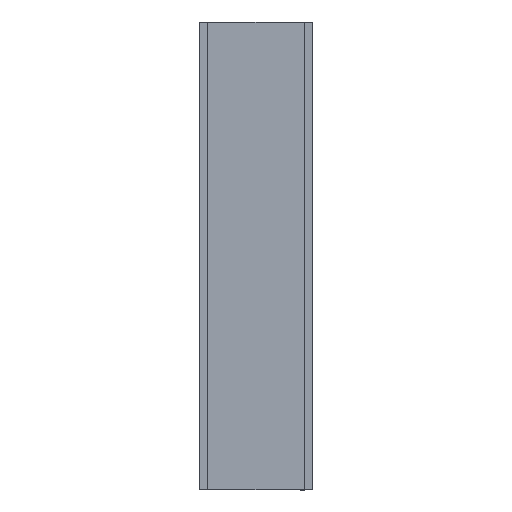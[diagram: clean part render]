
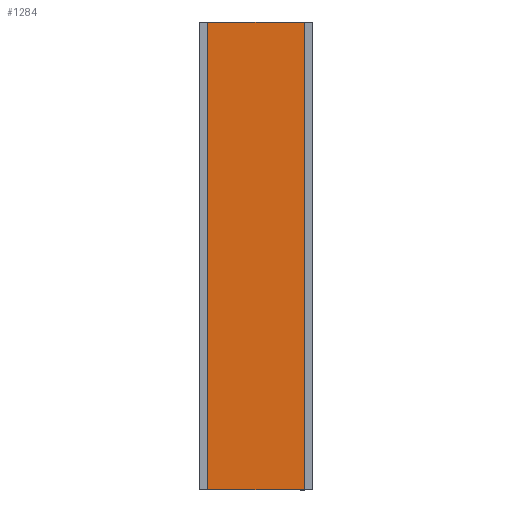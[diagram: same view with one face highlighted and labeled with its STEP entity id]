
A CAD part, front view. The second image highlights one B-rep face of the part: STEP entity #1284.
In plain terms, the highlighted planar face has unit normal (0, -1, 0).
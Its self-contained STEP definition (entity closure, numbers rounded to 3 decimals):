
#31 = EDGE_CURVE ( 'NONE', #717, #568, #858, .T. ) ;
#125 = LINE ( 'NONE', #543, #424 ) ;
#135 = EDGE_LOOP ( 'NONE', ( #270, #705, #887, #973 ) ) ;
#189 = CARTESIAN_POINT ( 'NONE',  ( 118.075, 0., -460. ) ) ;
#232 = AXIS2_PLACEMENT_3D ( 'NONE', #800, #277, #392 ) ;
#270 = ORIENTED_EDGE ( 'NONE', *, *, #612, .F. ) ;
#277 = DIRECTION ( 'NONE',  ( 0., -1., 0. ) ) ;
#293 = VECTOR ( 'NONE', #1319, 1000. ) ;
#330 = CARTESIAN_POINT ( 'NONE',  ( 0., 0., 0. ) ) ;
#351 = EDGE_CURVE ( 'NONE', #420, #1202, #1051, .T. ) ;
#392 = DIRECTION ( 'NONE',  ( 0., 0., -1. ) ) ;
#398 = PLANE ( 'NONE',  #232 ) ;
#420 = VERTEX_POINT ( 'NONE', #969 ) ;
#424 = VECTOR ( 'NONE', #870, 1000. ) ;
#480 = CARTESIAN_POINT ( 'NONE',  ( 23.075, 0., 0. ) ) ;
#543 = CARTESIAN_POINT ( 'NONE',  ( 23.075, 0., -460. ) ) ;
#568 = VERTEX_POINT ( 'NONE', #740 ) ;
#587 = LINE ( 'NONE', #1333, #293 ) ;
#612 = EDGE_CURVE ( 'NONE', #420, #717, #125, .T. ) ;
#705 = ORIENTED_EDGE ( 'NONE', *, *, #351, .T. ) ;
#717 = VERTEX_POINT ( 'NONE', #480 ) ;
#740 = CARTESIAN_POINT ( 'NONE',  ( 118.075, 0., 0. ) ) ;
#747 = DIRECTION ( 'NONE',  ( 1., 0., 0. ) ) ;
#800 = CARTESIAN_POINT ( 'NONE',  ( 0., 0., -460. ) ) ;
#820 = VECTOR ( 'NONE', #1250, 1000. ) ;
#858 = LINE ( 'NONE', #330, #1322 ) ;
#870 = DIRECTION ( 'NONE',  ( 0., 0., 1. ) ) ;
#887 = ORIENTED_EDGE ( 'NONE', *, *, #1273, .T. ) ;
#969 = CARTESIAN_POINT ( 'NONE',  ( 23.075, 0., -460. ) ) ;
#973 = ORIENTED_EDGE ( 'NONE', *, *, #31, .F. ) ;
#1005 = FACE_OUTER_BOUND ( 'NONE', #135, .T. ) ;
#1051 = LINE ( 'NONE', #1243, #820 ) ;
#1202 = VERTEX_POINT ( 'NONE', #189 ) ;
#1243 = CARTESIAN_POINT ( 'NONE',  ( 0., 0., -460. ) ) ;
#1250 = DIRECTION ( 'NONE',  ( 1., 0., 0. ) ) ;
#1273 = EDGE_CURVE ( 'NONE', #1202, #568, #587, .T. ) ;
#1284 = ADVANCED_FACE ( 'NONE', ( #1005 ), #398, .T. ) ;
#1319 = DIRECTION ( 'NONE',  ( 0., 0., 1. ) ) ;
#1322 = VECTOR ( 'NONE', #747, 1000. ) ;
#1333 = CARTESIAN_POINT ( 'NONE',  ( 118.075, 0., -460. ) ) ;
